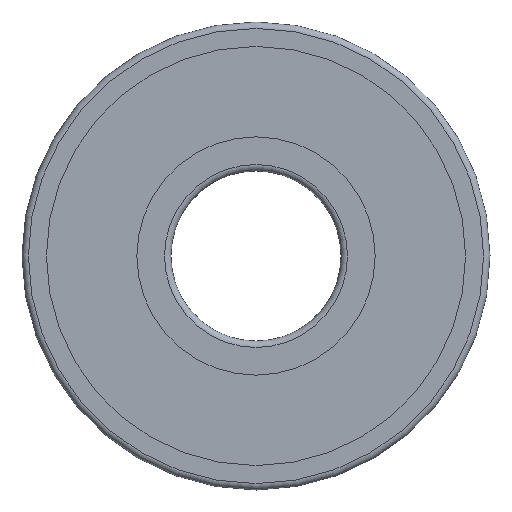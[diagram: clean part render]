
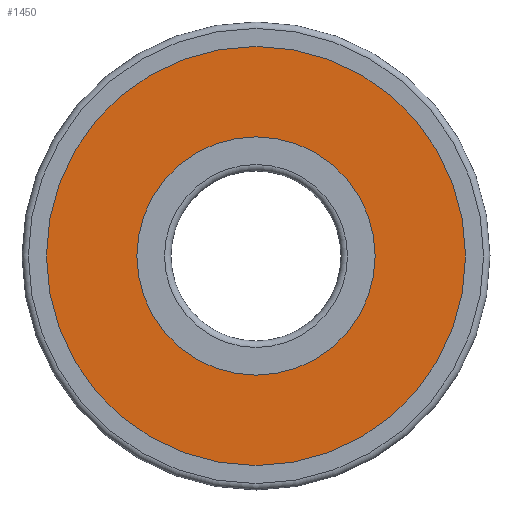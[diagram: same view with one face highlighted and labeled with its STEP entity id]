
A CAD part, left-side view. The second image highlights one B-rep face of the part: STEP entity #1450.
In plain terms, the highlighted planar face has unit normal (-1, 0, 0) as drawn and (1, 0, 0) by its records, which use the part's own axes.
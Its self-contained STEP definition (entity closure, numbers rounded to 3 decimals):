
#1350 = CYLINDRICAL_SURFACE('',#1351,2.8);
#1351 = AXIS2_PLACEMENT_3D('',#1352,#1353,#1354);
#1352 = CARTESIAN_POINT('',(0.465,0.,0.));
#1353 = DIRECTION('',(-1.,-0.,0.));
#1354 = DIRECTION('',(-0.,0.,-1.));
#1385 = CYLINDRICAL_SURFACE('',#1386,4.925);
#1386 = AXIS2_PLACEMENT_3D('',#1387,#1388,#1389);
#1387 = CARTESIAN_POINT('',(0.465,0.,0.));
#1388 = DIRECTION('',(-1.,-0.,0.));
#1389 = DIRECTION('',(-0.,0.,-1.));
#1400 = EDGE_CURVE('',#1401,#1401,#1403,.T.);
#1401 = VERTEX_POINT('',#1402);
#1402 = CARTESIAN_POINT('',(0.465,0.,-2.8));
#1403 = SURFACE_CURVE('',#1404,(#1409,#1416),.PCURVE_S1.);
#1404 = CIRCLE('',#1405,2.8);
#1405 = AXIS2_PLACEMENT_3D('',#1406,#1407,#1408);
#1406 = CARTESIAN_POINT('',(0.465,0.,0.));
#1407 = DIRECTION('',(1.,0.,-0.));
#1408 = DIRECTION('',(-0.,0.,-1.));
#1409 = PCURVE('',#1350,#1410);
#1410 = DEFINITIONAL_REPRESENTATION('',(#1411),#1415);
#1411 = LINE('',#1412,#1413);
#1412 = CARTESIAN_POINT('',(6.283,0.));
#1413 = VECTOR('',#1414,1.);
#1414 = DIRECTION('',(-1.,0.));
#1415 = ( GEOMETRIC_REPRESENTATION_CONTEXT(2) 
PARAMETRIC_REPRESENTATION_CONTEXT() REPRESENTATION_CONTEXT('2D SPACE',''
  ) );
#1416 = PCURVE('',#1417,#1422);
#1417 = PLANE('',#1418);
#1418 = AXIS2_PLACEMENT_3D('',#1419,#1420,#1421);
#1419 = CARTESIAN_POINT('',(0.465,2.8,0.));
#1420 = DIRECTION('',(1.,0.,-0.));
#1421 = DIRECTION('',(-0.,0.,-1.));
#1422 = DEFINITIONAL_REPRESENTATION('',(#1423),#1427);
#1423 = CIRCLE('',#1424,2.8);
#1424 = AXIS2_PLACEMENT_2D('',#1425,#1426);
#1425 = CARTESIAN_POINT('',(0.,-2.8));
#1426 = DIRECTION('',(1.,0.));
#1427 = ( GEOMETRIC_REPRESENTATION_CONTEXT(2) 
PARAMETRIC_REPRESENTATION_CONTEXT() REPRESENTATION_CONTEXT('2D SPACE',''
  ) );
#1450 = ADVANCED_FACE('',(#1451,#1477),#1417,.T.);
#1451 = FACE_BOUND('',#1452,.T.);
#1452 = EDGE_LOOP('',(#1453));
#1453 = ORIENTED_EDGE('',*,*,#1454,.T.);
#1454 = EDGE_CURVE('',#1455,#1455,#1457,.T.);
#1455 = VERTEX_POINT('',#1456);
#1456 = CARTESIAN_POINT('',(0.465,0.,-4.925));
#1457 = SURFACE_CURVE('',#1458,(#1463,#1470),.PCURVE_S1.);
#1458 = CIRCLE('',#1459,4.925);
#1459 = AXIS2_PLACEMENT_3D('',#1460,#1461,#1462);
#1460 = CARTESIAN_POINT('',(0.465,0.,0.));
#1461 = DIRECTION('',(1.,0.,-0.));
#1462 = DIRECTION('',(-0.,0.,-1.));
#1463 = PCURVE('',#1417,#1464);
#1464 = DEFINITIONAL_REPRESENTATION('',(#1465),#1469);
#1465 = CIRCLE('',#1466,4.925);
#1466 = AXIS2_PLACEMENT_2D('',#1467,#1468);
#1467 = CARTESIAN_POINT('',(0.,-2.8));
#1468 = DIRECTION('',(1.,0.));
#1469 = ( GEOMETRIC_REPRESENTATION_CONTEXT(2) 
PARAMETRIC_REPRESENTATION_CONTEXT() REPRESENTATION_CONTEXT('2D SPACE',''
  ) );
#1470 = PCURVE('',#1385,#1471);
#1471 = DEFINITIONAL_REPRESENTATION('',(#1472),#1476);
#1472 = LINE('',#1473,#1474);
#1473 = CARTESIAN_POINT('',(6.283,0.));
#1474 = VECTOR('',#1475,1.);
#1475 = DIRECTION('',(-1.,0.));
#1476 = ( GEOMETRIC_REPRESENTATION_CONTEXT(2) 
PARAMETRIC_REPRESENTATION_CONTEXT() REPRESENTATION_CONTEXT('2D SPACE',''
  ) );
#1477 = FACE_BOUND('',#1478,.T.);
#1478 = EDGE_LOOP('',(#1479));
#1479 = ORIENTED_EDGE('',*,*,#1400,.F.);
